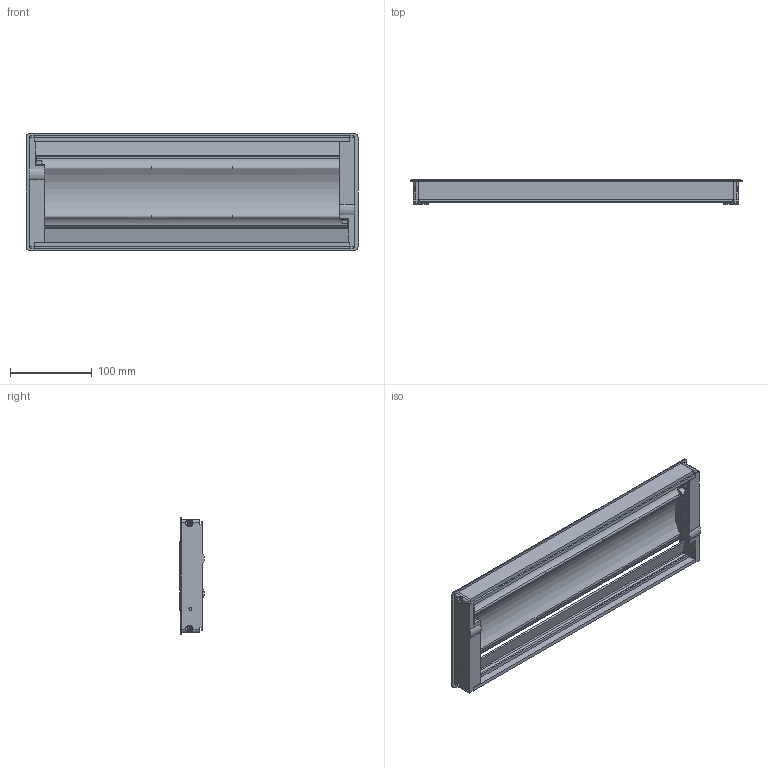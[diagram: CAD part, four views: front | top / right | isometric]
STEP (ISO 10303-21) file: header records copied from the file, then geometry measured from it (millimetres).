
FILE_DESCRIPTION (( 'STEP AP203' ), '1' );
FILE_NAME ('25.20.363-0 Soft Close Grommet Flip 412,5x140x28mm.STEP', '2024-12-19T06:32:56', ( '' ), ( '' ), 'SwSTEP 2.0', 'SolidWorks 2024', '' );
FILE_SCHEMA (( 'CONFIG_CONTROL_DESIGN' ));
Length unit declared in the file: millimetre
Products named in the file (1): 25.20.363-0 Soft Close Grommet Flip 412,5x140x28mm
Bounding box: 407.2 x 30.16 x 143.65 mm (x, y, z)
Surface area: 204615.8 mm2 (no closed solid volume)
Topology: 0 solids, 20 shells, 281 faces, 1045 edges, 746 vertices
Faces by surface type: plane 144, cylinder 93, torus 14, sphere 12, bspline 10, cone 8
Entity records: 11727 total; most frequent: CARTESIAN_POINT 2773, DIRECTION 1955, ORIENTED_EDGE 1626, EDGE_CURVE 1045, VERTEX_POINT 746, AXIS2_PLACEMENT_3D 676, VECTOR 603, LINE 603
